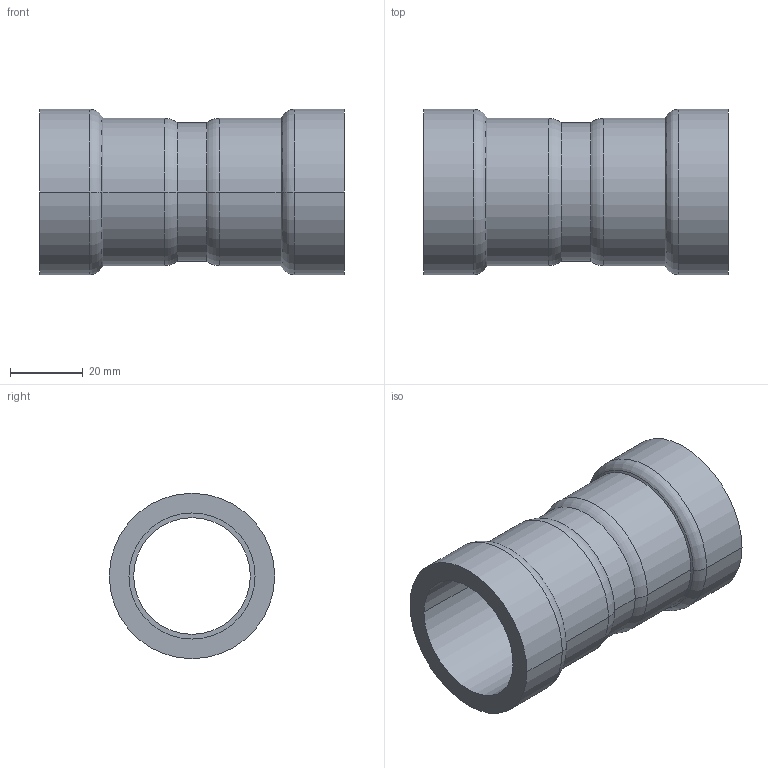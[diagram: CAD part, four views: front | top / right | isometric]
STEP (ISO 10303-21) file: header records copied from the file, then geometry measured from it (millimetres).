
FILE_DESCRIPTION(('Creo Elements/Direct Modeling STEP Export'),'2;1');
FILE_NAME('C9401_1.stp','2020-06-08T10:46:40',(''),(''),'PTC Creo Elements/Direct Modeling STEP processor for AP214 (Solid Model)','PTC Creo Elements/Direct Modeling 19.0C 15-Aug-2015 (C) Parametric Technology GmbH','');
FILE_SCHEMA(('AUTOMOTIVE_DESIGN { 1 0 10303 214 1 1 1 1 }'));
Length unit declared in the file: millimetre
Products named in the file (2): C9401_1
Assembly tree (1 placements, depth 2):
  C9401_1
    C9401_1
Bounding box: 83.49 x 45.4 x 45.4 mm (x, y, z)
Volume: 39276.6 mm3; surface area: 22007.8 mm2
Topology: 1 solids, 1 shells, 32 faces, 64 edges, 36 vertices
Faces by surface type: cylinder 16, torus 8, cone 4, plane 4
Entity records: 791 total; most frequent: DIRECTION 140, ORIENTED_EDGE 128, CARTESIAN_POINT 116, EDGE_CURVE 64, AXIS2_PLACEMENT_3D 60, VERTEX_POINT 36, EDGE_LOOP 36, FACE_OUTER_BOUND 32
